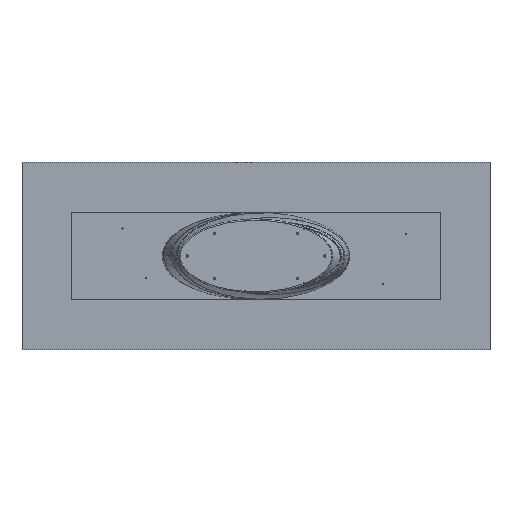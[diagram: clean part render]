
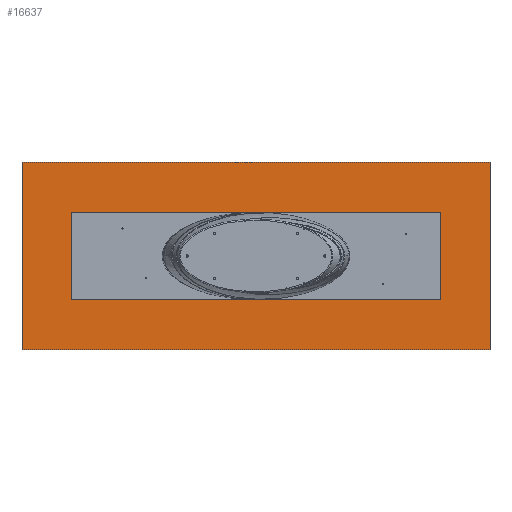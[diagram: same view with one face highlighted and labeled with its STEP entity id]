
A CAD part, front view. The second image highlights one B-rep face of the part: STEP entity #16637.
In plain terms, the highlighted planar face has unit normal (0, -1, 0).
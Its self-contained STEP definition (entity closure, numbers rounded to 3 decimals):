
#1355 = DIRECTION ( 'NONE',  ( 0., -1., 0. ) ) ;
#2042 = EDGE_CURVE ( 'NONE', #5623, #22171, #13179, .T. ) ;
#2478 = CARTESIAN_POINT ( 'NONE',  ( -1500., 50., 600. ) ) ;
#4769 = CARTESIAN_POINT ( 'NONE',  ( -1500., 50., 600. ) ) ;
#5427 = DIRECTION ( 'NONE',  ( -1., 0., 0. ) ) ;
#5623 = VERTEX_POINT ( 'NONE', #2478 ) ;
#6773 = CARTESIAN_POINT ( 'NONE',  ( 0., 50., 0. ) ) ;
#7343 = LINE ( 'NONE', #12766, #7845 ) ;
#7845 = VECTOR ( 'NONE', #10323, 1000. ) ;
#8052 = CARTESIAN_POINT ( 'NONE',  ( -1500., 50., 600. ) ) ;
#8416 = LINE ( 'NONE', #8052, #12652 ) ;
#9353 = EDGE_LOOP ( 'NONE', ( #21741, #13948, #23730, #24324 ) ) ;
#10323 = DIRECTION ( 'NONE',  ( 0., 0., -1. ) ) ;
#10846 = CARTESIAN_POINT ( 'NONE',  ( -1500., 50., -600. ) ) ;
#12652 = VECTOR ( 'NONE', #16458, 1000. ) ;
#12766 = CARTESIAN_POINT ( 'NONE',  ( 1500., 50., 600. ) ) ;
#12936 = PLANE ( 'NONE',  #35328 ) ;
#13179 = LINE ( 'NONE', #4769, #19099 ) ;
#13652 = LINE ( 'NONE', #10846, #28758 ) ;
#13948 = ORIENTED_EDGE ( 'NONE', *, *, #2042, .F. ) ;
#15505 = EDGE_CURVE ( 'NONE', #22171, #25222, #7343, .T. ) ;
#16458 = DIRECTION ( 'NONE',  ( 0., 0., 1. ) ) ;
#16602 = CARTESIAN_POINT ( 'NONE',  ( 1500., 50., 600. ) ) ;
#16637 = ADVANCED_FACE ( 'NONE', ( #26953 ), #12936, .T. ) ;
#17527 = CARTESIAN_POINT ( 'NONE',  ( -1500., 50., -600. ) ) ;
#19099 = VECTOR ( 'NONE', #24757, 1000. ) ;
#20525 = EDGE_CURVE ( 'NONE', #25222, #22842, #13652, .T. ) ;
#20576 = EDGE_CURVE ( 'NONE', #22842, #5623, #8416, .T. ) ;
#21741 = ORIENTED_EDGE ( 'NONE', *, *, #15505, .F. ) ;
#21744 = CARTESIAN_POINT ( 'NONE',  ( 1500., 50., -600. ) ) ;
#22171 = VERTEX_POINT ( 'NONE', #16602 ) ;
#22842 = VERTEX_POINT ( 'NONE', #17527 ) ;
#23730 = ORIENTED_EDGE ( 'NONE', *, *, #20576, .F. ) ;
#24324 = ORIENTED_EDGE ( 'NONE', *, *, #20525, .F. ) ;
#24506 = DIRECTION ( 'NONE',  ( 0., 0., -1. ) ) ;
#24757 = DIRECTION ( 'NONE',  ( 1., 0., 0. ) ) ;
#25222 = VERTEX_POINT ( 'NONE', #21744 ) ;
#26953 = FACE_OUTER_BOUND ( 'NONE', #9353, .T. ) ;
#28758 = VECTOR ( 'NONE', #5427, 1000. ) ;
#35328 = AXIS2_PLACEMENT_3D ( 'NONE', #6773, #1355, #24506 ) ;
